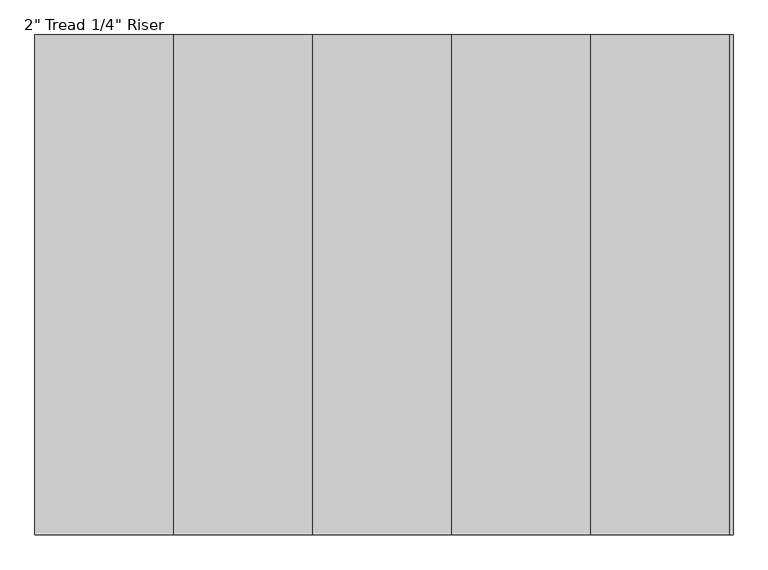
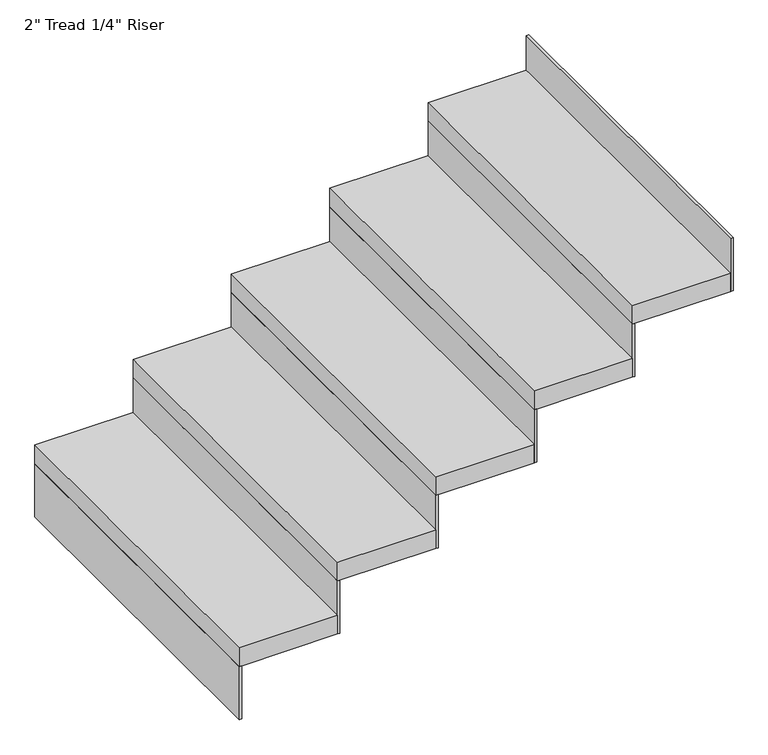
"""IFC4 building model written with IfcOpenShell, lengths in millimetres: stair flight geometry."""

from ifc_helpers import new_model, si_unit, frame, origin, place, context, project, spatial, polyline, outline, extrude, source, transform, mapped, element, save


def stair_flight_241b84f4(model_context):
    return source(origin(), model_context, "Body", "SweptSolid", [
        extrude(outline(polyline([(162729.276153, 32314.0539886), (162722.926153, 32314.0539886), (162722.926153, 33228.4539886), (162729.276153, 33228.4539886), (162729.276153, 32314.0539886)])), frame((0.0, 0.0, 2126.3428571), z_axis=(0.0, 0.0, 1.0), x_axis=(1.0, 0.0, 0.0)), (0.0, 0.0, 1.0), 145.1428571),
        extrude(outline(polyline([(162976.926153, 33228.4539886), (162976.926153, 32314.0539886), (162722.926153, 32314.0539886), (162722.926153, 33228.4539886), (162976.926153, 33228.4539886)])), frame((0.0, 0.0, 2271.4857143), z_axis=(0.0, 0.0, 1.0), x_axis=(1.0, 0.0, 0.0)), (0.0, 0.0, 1.0), 50.8),
        extrude(outline(polyline([(162983.276153, 32314.0539886), (162976.926153, 32314.0539886), (162976.926153, 33228.4539886), (162983.276153, 33228.4539886), (162983.276153, 32314.0539886)])), frame((0.0, 0.0, 2271.4857143), z_axis=(0.0, 0.0, 1.0), x_axis=(1.0, 0.0, 0.0)), (0.0, 0.0, 1.0), 145.1428571),
        extrude(outline(polyline([(163230.926153, 33228.4539886), (163230.926153, 32314.0539886), (162976.926153, 32314.0539886), (162976.926153, 33228.4539886), (163230.926153, 33228.4539886)])), frame((0.0, 0.0, 2416.6285714), z_axis=(0.0, 0.0, 1.0), x_axis=(1.0, 0.0, 0.0)), (0.0, 0.0, 1.0), 50.8),
        extrude(outline(polyline([(163237.276153, 32314.0539886), (163230.926153, 32314.0539886), (163230.926153, 33228.4539886), (163237.276153, 33228.4539886), (163237.276153, 32314.0539886)])), frame((0.0, 0.0, 2416.6285714), z_axis=(0.0, 0.0, 1.0), x_axis=(1.0, 0.0, 0.0)), (0.0, 0.0, 1.0), 145.1428571),
        extrude(outline(polyline([(163484.926153, 33228.4539886), (163484.926153, 32314.0539886), (163230.926153, 32314.0539886), (163230.926153, 33228.4539886), (163484.926153, 33228.4539886)])), frame((0.0, 0.0, 2561.7714286), z_axis=(0.0, 0.0, 1.0), x_axis=(1.0, 0.0, 0.0)), (0.0, 0.0, 1.0), 50.8),
        extrude(outline(polyline([(163491.276153, 32314.0539886), (163484.926153, 32314.0539886), (163484.926153, 33228.4539886), (163491.276153, 33228.4539886), (163491.276153, 32314.0539886)])), frame((0.0, 0.0, 2561.7714286), z_axis=(0.0, 0.0, 1.0), x_axis=(1.0, 0.0, 0.0)), (0.0, 0.0, 1.0), 145.1428571),
        extrude(outline(polyline([(163738.926153, 33228.4539886), (163738.926153, 32314.0539886), (163484.926153, 32314.0539886), (163484.926153, 33228.4539886), (163738.926153, 33228.4539886)])), frame((0.0, 0.0, 2706.9142857), z_axis=(0.0, 0.0, 1.0), x_axis=(1.0, 0.0, 0.0)), (0.0, 0.0, 1.0), 50.8),
        extrude(outline(polyline([(163745.276153, 32314.0539886), (163738.926153, 32314.0539886), (163738.926153, 33228.4539886), (163745.276153, 33228.4539886), (163745.276153, 32314.0539886)])), frame((0.0, 0.0, 2706.9142857), z_axis=(0.0, 0.0, 1.0), x_axis=(1.0, 0.0, 0.0)), (0.0, 0.0, 1.0), 145.1428571),
        extrude(outline(polyline([(163999.276153, 32314.0539886), (163992.926153, 32314.0539886), (163992.926153, 33228.4539886), (163999.276153, 33228.4539886), (163999.276153, 32314.0539886)])), frame((0.0, 0.0, 2852.0571429), z_axis=(0.0, 0.0, 1.0), x_axis=(1.0, 0.0, 0.0)), (0.0, 0.0, 1.0), 145.1428571),
        extrude(outline(polyline([(163992.926153, 33228.4539886), (163992.926153, 32314.0539886), (163738.926153, 32314.0539886), (163738.926153, 33228.4539886), (163992.926153, 33228.4539886)])), frame((0.0, 0.0, 2852.0571429), z_axis=(0.0, 0.0, 1.0), x_axis=(1.0, 0.0, 0.0)), (0.0, 0.0, 1.0), 50.8),
    ])


if __name__ == "__main__":
    model = new_model("IFC4")
    model_context = context("Model", 3, world=origin())
    ifc_project = project(units=[si_unit("LENGTHUNIT", "METRE", prefix="MILLI")], contexts=[model_context])
    site = spatial("IfcSite", under=ifc_project)
    building = spatial("IfcBuilding", under=site)
    placement = place(None, origin())
    stair_flight_shape = stair_flight_241b84f4(model_context)
    element("IfcStairFlight", 1, ObjectType="2\" Tread 1/4\" Riser", at=placement, inside=building, context=model_context, shape_type="MappedRepresentation", body=[
        mapped(stair_flight_shape, transform((0.0, 0.0, 0.0), x_axis=(1.0, 0.0, 0.0), y_axis=(0.0, 1.0, 0.0), z_axis=(0.0, 0.0, 1.0))),
    ])
    save(model, "model.ifc")
